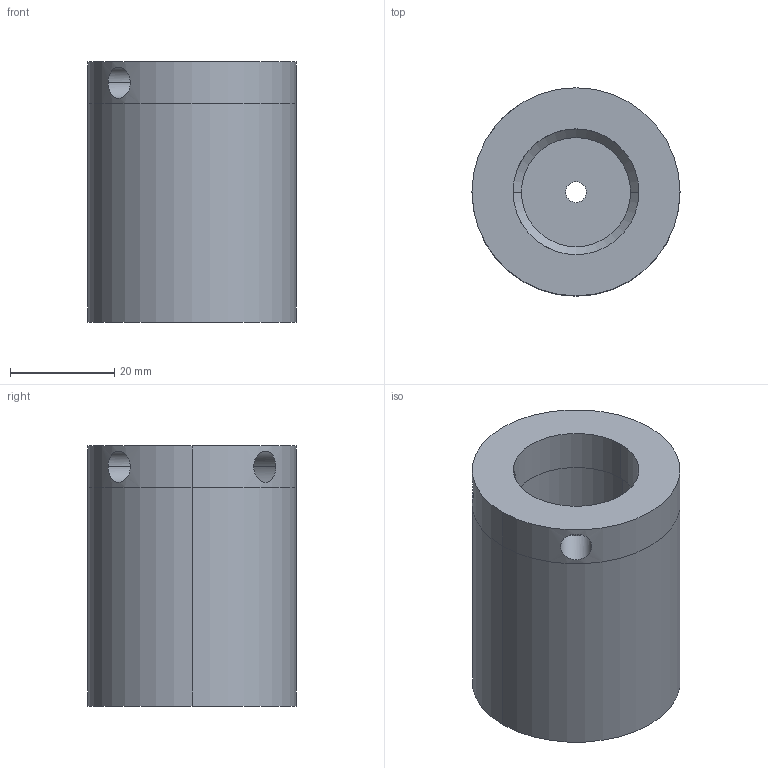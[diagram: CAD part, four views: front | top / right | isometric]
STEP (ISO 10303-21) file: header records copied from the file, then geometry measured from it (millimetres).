
FILE_DESCRIPTION(/* description */ (''),/* implementation_level */ '2;1');
FILE_NAME(/* name */ '3d_usn25-50_06269_r00.stp',/* time_stamp */ '2011-01-10T14:08:53+09:00',/* author */ ('MISUMI'),/* organization */ (''),/* preprocessor_version */ 'ST-DEVELOPER v11',/* originating_system */ 'UGS - NX 5.0',/* authorisation */ '');
FILE_SCHEMA (('CONFIG_CONTROL_DESIGN'));
Length unit declared in the file: millimetre
Products named in the file (1): 3d_usn25-50_06269_r00
Bounding box: 40 x 40 x 50 mm (x, y, z)
Volume: 41583.5 mm3; surface area: 12368 mm2
Topology: 1 solids, 1 shells, 20 faces, 44 edges, 28 vertices
Faces by surface type: cylinder 14, plane 4, cone 2
Entity records: 878 total; most frequent: CARTESIAN_POINT 333, DIRECTION 98, ORIENTED_EDGE 88, EDGE_CURVE 44, AXIS2_PLACEMENT_3D 41, EDGE_LOOP 28, VERTEX_POINT 28, ADVANCED_FACE 20
